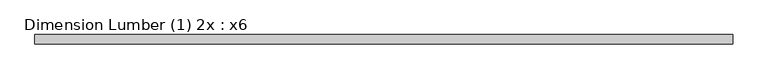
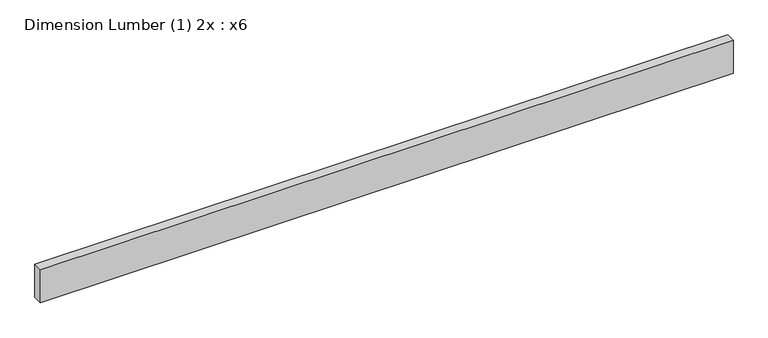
"""IFC4 building model written with IfcOpenShell, lengths in millimetres: beam geometry, Dimension Lumber (1) 2x : x6."""

from ifc_helpers import new_model, si_unit, frame, origin, place, context, project, spatial, polyline, outline, extrude, source, transform, mapped, element, save


def dimension_lumber_1_2x_x6_5ffdb31a(model_context):
    return source(origin(), model_context, "Body", "SweptSolid", [
        extrude(outline(polyline([(1390.65, 19.05), (1390.65, -19.05), (-1390.65, -19.05), (-1390.65, 19.05), (1390.65, 19.05)])), frame((0.0, 0.0, -69.85), z_axis=(0.0, 0.0, 1.0), x_axis=(1.0, 0.0, 0.0)), (0.0, 0.0, 1.0), 139.7),
    ])


if __name__ == "__main__":
    model = new_model("IFC4")
    model_context = context("Model", 3, world=origin())
    ifc_project = project(units=[si_unit("LENGTHUNIT", "METRE", prefix="MILLI")], contexts=[model_context])
    site = spatial("IfcSite", under=ifc_project)
    building = spatial("IfcBuilding", under=site)
    placement = place(None, origin())
    dimension_lumber_1_2x_x6_shape = dimension_lumber_1_2x_x6_5ffdb31a(model_context)
    element("IfcBeam", 1, ObjectType="Dimension Lumber (1) 2x : x6", at=placement, inside=building, context=model_context, shape_type="MappedRepresentation", body=[
        mapped(dimension_lumber_1_2x_x6_shape, transform((0.0, 0.0, 0.0), x_axis=(1.0, 0.0, 0.0), y_axis=(0.0, 1.0, 0.0), z_axis=(0.0, 0.0, 1.0))),
    ])
    save(model, "model.ifc")
